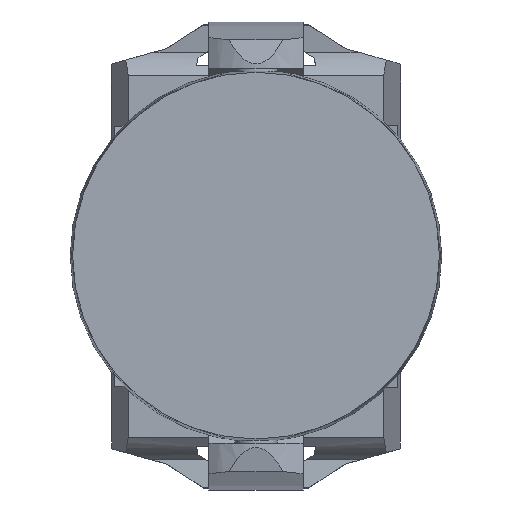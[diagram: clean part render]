
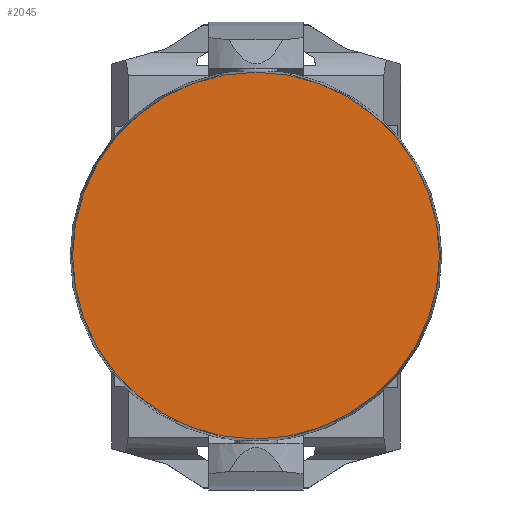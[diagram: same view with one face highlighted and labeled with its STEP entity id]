
A CAD part, top view. The second image highlights one B-rep face of the part: STEP entity #2045.
In plain terms, the highlighted planar face has unit normal (0, 0, 1) as drawn and (-0.866, 0, 0.5) by its records, which use the part's own axes.
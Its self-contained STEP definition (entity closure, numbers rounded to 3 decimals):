
#950=ORIENTED_EDGE('',*,*,#1222,.F.);
#1222=EDGE_CURVE('',#1417,#1417,#1480,.T.);
#1417=VERTEX_POINT('',#3567);
#1480=CIRCLE('',#2295,173.014);
#1653=EDGE_LOOP('',(#950));
#1831=FACE_BOUND('',#1653,.T.);
#1924=PLANE('',#2298);
#2045=ADVANCED_FACE('',(#1831),#1924,.T.);
#2295=AXIS2_PLACEMENT_3D('',#3566,#2880,#2881);
#2298=AXIS2_PLACEMENT_3D('',#3604,#2886,#2887);
#2880=DIRECTION('',(0.866,0.,-0.5));
#2881=DIRECTION('',(-0.5,0.,-0.866));
#2886=DIRECTION('',(-0.866,0.,0.5));
#2887=DIRECTION('',(0.5,0.,0.866));
#3566=CARTESIAN_POINT('',(-59.756,0.,411.5));
#3567=CARTESIAN_POINT('',(-146.263,0.,261.665));
#3604=CARTESIAN_POINT('',(-146.263,0.,261.665));
